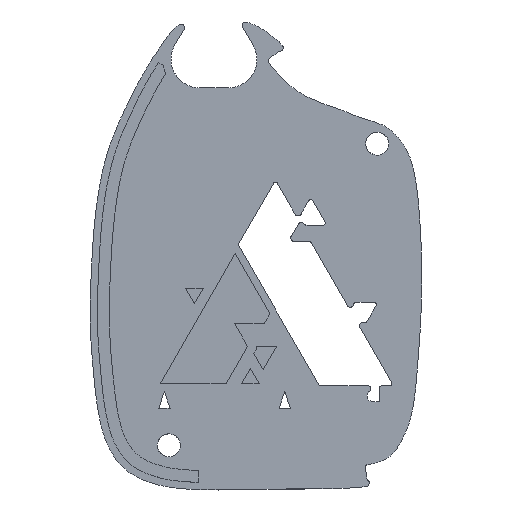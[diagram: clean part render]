
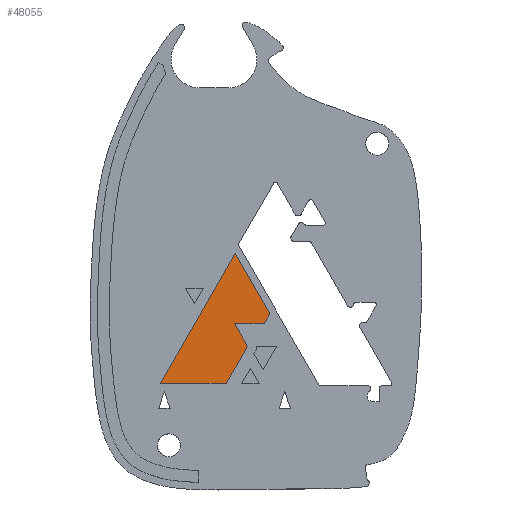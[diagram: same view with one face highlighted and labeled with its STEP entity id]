
A CAD part, top view. The second image highlights one B-rep face of the part: STEP entity #48055.
In plain terms, the highlighted planar face has unit normal (0, 0, 1).
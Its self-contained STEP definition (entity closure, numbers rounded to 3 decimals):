
#13393 = PLANE('',#13394);
#13394 = AXIS2_PLACEMENT_3D('',#13395,#13396,#13397);
#13395 = CARTESIAN_POINT('',(-2.244,-10.844,6.39));
#13396 = DIRECTION('',(-0.868,-0.497,0.));
#13397 = DIRECTION('',(-0.497,0.868,0.));
#13419 = PLANE('',#13420);
#13420 = AXIS2_PLACEMENT_3D('',#13421,#13422,#13423);
#13421 = CARTESIAN_POINT('',(-4.756,-15.207,6.39));
#13422 = DIRECTION('',(-0.867,0.499,0.));
#13423 = DIRECTION('',(0.499,0.867,0.));
#13445 = PLANE('',#13446);
#13446 = AXIS2_PLACEMENT_3D('',#13447,#13448,#13449);
#13447 = CARTESIAN_POINT('',(-12.5,-15.207,6.39));
#13448 = DIRECTION('',(0.,1.,0.));
#13449 = DIRECTION('',(1.,0.,0.));
#13471 = PLANE('',#13472);
#13472 = AXIS2_PLACEMENT_3D('',#13473,#13474,#13475);
#13473 = CARTESIAN_POINT('',(-3.706,0.098,6.39));
#13474 = DIRECTION('',(0.867,-0.498,0.));
#13475 = DIRECTION('',(-0.498,-0.867,0.));
#13497 = PLANE('',#13498);
#13498 = AXIS2_PLACEMENT_3D('',#13499,#13500,#13501);
#13499 = CARTESIAN_POINT('',(0.383,-7.006,6.39));
#13500 = DIRECTION('',(-0.867,-0.499,0.));
#13501 = DIRECTION('',(-0.499,0.867,0.));
#13523 = PLANE('',#13524);
#13524 = AXIS2_PLACEMENT_3D('',#13525,#13526,#13527);
#13525 = CARTESIAN_POINT('',(-0.279,-8.171,6.39));
#13526 = DIRECTION('',(-0.869,0.494,0.));
#13527 = DIRECTION('',(0.494,0.869,0.));
#13547 = PLANE('',#13548);
#13548 = AXIS2_PLACEMENT_3D('',#13549,#13550,#13551);
#13549 = CARTESIAN_POINT('',(-3.774,-8.171,6.39));
#13550 = DIRECTION('',(0.,1.,0.));
#13551 = DIRECTION('',(1.,0.,0.));
#47985 = VERTEX_POINT('',#47986);
#47986 = CARTESIAN_POINT('',(-3.774,-8.171,8.4));
#48007 = EDGE_CURVE('',#47985,#48008,#48010,.T.);
#48008 = VERTEX_POINT('',#48009);
#48009 = CARTESIAN_POINT('',(-0.279,-8.171,8.4));
#48010 = SURFACE_CURVE('',#48011,(#48015,#48022),.PCURVE_S1.);
#48011 = LINE('',#48012,#48013);
#48012 = CARTESIAN_POINT('',(-3.774,-8.171,8.4));
#48013 = VECTOR('',#48014,1.);
#48014 = DIRECTION('',(1.,0.,0.));
#48015 = PCURVE('',#13547,#48016);
#48016 = DEFINITIONAL_REPRESENTATION('',(#48017),#48021);
#48017 = LINE('',#48018,#48019);
#48018 = CARTESIAN_POINT('',(0.,-2.01));
#48019 = VECTOR('',#48020,1.);
#48020 = DIRECTION('',(1.,0.));
#48021 = ( GEOMETRIC_REPRESENTATION_CONTEXT(2) 
PARAMETRIC_REPRESENTATION_CONTEXT() REPRESENTATION_CONTEXT('2D SPACE',''
  ) );
#48022 = PCURVE('',#48023,#48028);
#48023 = PLANE('',#48024);
#48024 = AXIS2_PLACEMENT_3D('',#48025,#48026,#48027);
#48025 = CARTESIAN_POINT('',(-5.53,-8.874,8.4));
#48026 = DIRECTION('',(0.,0.,1.));
#48027 = DIRECTION('',(1.,0.,-0.));
#48028 = DEFINITIONAL_REPRESENTATION('',(#48029),#48033);
#48029 = LINE('',#48030,#48031);
#48030 = CARTESIAN_POINT('',(1.756,0.703));
#48031 = VECTOR('',#48032,1.);
#48032 = DIRECTION('',(1.,0.));
#48033 = ( GEOMETRIC_REPRESENTATION_CONTEXT(2) 
PARAMETRIC_REPRESENTATION_CONTEXT() REPRESENTATION_CONTEXT('2D SPACE',''
  ) );
#48055 = ADVANCED_FACE('',(#48056),#48023,.T.);
#48056 = FACE_BOUND('',#48057,.T.);
#48057 = EDGE_LOOP('',(#48058,#48083,#48104,#48105,#48128,#48151,#48174)
  );
#48058 = ORIENTED_EDGE('',*,*,#48059,.T.);
#48059 = EDGE_CURVE('',#48060,#48062,#48064,.T.);
#48060 = VERTEX_POINT('',#48061);
#48061 = CARTESIAN_POINT('',(-4.756,-15.207,8.4));
#48062 = VERTEX_POINT('',#48063);
#48063 = CARTESIAN_POINT('',(-2.244,-10.844,8.4));
#48064 = SURFACE_CURVE('',#48065,(#48069,#48076),.PCURVE_S1.);
#48065 = LINE('',#48066,#48067);
#48066 = CARTESIAN_POINT('',(-4.756,-15.207,8.4));
#48067 = VECTOR('',#48068,1.);
#48068 = DIRECTION('',(0.499,0.867,0.));
#48069 = PCURVE('',#48023,#48070);
#48070 = DEFINITIONAL_REPRESENTATION('',(#48071),#48075);
#48071 = LINE('',#48072,#48073);
#48072 = CARTESIAN_POINT('',(0.773,-6.333));
#48073 = VECTOR('',#48074,1.);
#48074 = DIRECTION('',(0.499,0.867));
#48075 = ( GEOMETRIC_REPRESENTATION_CONTEXT(2) 
PARAMETRIC_REPRESENTATION_CONTEXT() REPRESENTATION_CONTEXT('2D SPACE',''
  ) );
#48076 = PCURVE('',#13419,#48077);
#48077 = DEFINITIONAL_REPRESENTATION('',(#48078),#48082);
#48078 = LINE('',#48079,#48080);
#48079 = CARTESIAN_POINT('',(0.,-2.01));
#48080 = VECTOR('',#48081,1.);
#48081 = DIRECTION('',(1.,0.));
#48082 = ( GEOMETRIC_REPRESENTATION_CONTEXT(2) 
PARAMETRIC_REPRESENTATION_CONTEXT() REPRESENTATION_CONTEXT('2D SPACE',''
  ) );
#48083 = ORIENTED_EDGE('',*,*,#48084,.T.);
#48084 = EDGE_CURVE('',#48062,#47985,#48085,.T.);
#48085 = SURFACE_CURVE('',#48086,(#48090,#48097),.PCURVE_S1.);
#48086 = LINE('',#48087,#48088);
#48087 = CARTESIAN_POINT('',(-2.244,-10.844,8.4));
#48088 = VECTOR('',#48089,1.);
#48089 = DIRECTION('',(-0.497,0.868,0.));
#48090 = PCURVE('',#48023,#48091);
#48091 = DEFINITIONAL_REPRESENTATION('',(#48092),#48096);
#48092 = LINE('',#48093,#48094);
#48093 = CARTESIAN_POINT('',(3.286,-1.97));
#48094 = VECTOR('',#48095,1.);
#48095 = DIRECTION('',(-0.497,0.868));
#48096 = ( GEOMETRIC_REPRESENTATION_CONTEXT(2) 
PARAMETRIC_REPRESENTATION_CONTEXT() REPRESENTATION_CONTEXT('2D SPACE',''
  ) );
#48097 = PCURVE('',#13393,#48098);
#48098 = DEFINITIONAL_REPRESENTATION('',(#48099),#48103);
#48099 = LINE('',#48100,#48101);
#48100 = CARTESIAN_POINT('',(0.,-2.01));
#48101 = VECTOR('',#48102,1.);
#48102 = DIRECTION('',(1.,0.));
#48103 = ( GEOMETRIC_REPRESENTATION_CONTEXT(2) 
PARAMETRIC_REPRESENTATION_CONTEXT() REPRESENTATION_CONTEXT('2D SPACE',''
  ) );
#48104 = ORIENTED_EDGE('',*,*,#48007,.T.);
#48105 = ORIENTED_EDGE('',*,*,#48106,.T.);
#48106 = EDGE_CURVE('',#48008,#48107,#48109,.T.);
#48107 = VERTEX_POINT('',#48108);
#48108 = CARTESIAN_POINT('',(0.383,-7.006,8.4));
#48109 = SURFACE_CURVE('',#48110,(#48114,#48121),.PCURVE_S1.);
#48110 = LINE('',#48111,#48112);
#48111 = CARTESIAN_POINT('',(-0.279,-8.171,8.4));
#48112 = VECTOR('',#48113,1.);
#48113 = DIRECTION('',(0.494,0.869,0.));
#48114 = PCURVE('',#48023,#48115);
#48115 = DEFINITIONAL_REPRESENTATION('',(#48116),#48120);
#48116 = LINE('',#48117,#48118);
#48117 = CARTESIAN_POINT('',(5.25,0.703));
#48118 = VECTOR('',#48119,1.);
#48119 = DIRECTION('',(0.494,0.869));
#48120 = ( GEOMETRIC_REPRESENTATION_CONTEXT(2) 
PARAMETRIC_REPRESENTATION_CONTEXT() REPRESENTATION_CONTEXT('2D SPACE',''
  ) );
#48121 = PCURVE('',#13523,#48122);
#48122 = DEFINITIONAL_REPRESENTATION('',(#48123),#48127);
#48123 = LINE('',#48124,#48125);
#48124 = CARTESIAN_POINT('',(0.,-2.01));
#48125 = VECTOR('',#48126,1.);
#48126 = DIRECTION('',(1.,0.));
#48127 = ( GEOMETRIC_REPRESENTATION_CONTEXT(2) 
PARAMETRIC_REPRESENTATION_CONTEXT() REPRESENTATION_CONTEXT('2D SPACE',''
  ) );
#48128 = ORIENTED_EDGE('',*,*,#48129,.T.);
#48129 = EDGE_CURVE('',#48107,#48130,#48132,.T.);
#48130 = VERTEX_POINT('',#48131);
#48131 = CARTESIAN_POINT('',(-3.706,0.098,8.4));
#48132 = SURFACE_CURVE('',#48133,(#48137,#48144),.PCURVE_S1.);
#48133 = LINE('',#48134,#48135);
#48134 = CARTESIAN_POINT('',(0.383,-7.006,8.4));
#48135 = VECTOR('',#48136,1.);
#48136 = DIRECTION('',(-0.499,0.867,0.));
#48137 = PCURVE('',#48023,#48138);
#48138 = DEFINITIONAL_REPRESENTATION('',(#48139),#48143);
#48139 = LINE('',#48140,#48141);
#48140 = CARTESIAN_POINT('',(5.913,1.868));
#48141 = VECTOR('',#48142,1.);
#48142 = DIRECTION('',(-0.499,0.867));
#48143 = ( GEOMETRIC_REPRESENTATION_CONTEXT(2) 
PARAMETRIC_REPRESENTATION_CONTEXT() REPRESENTATION_CONTEXT('2D SPACE',''
  ) );
#48144 = PCURVE('',#13497,#48145);
#48145 = DEFINITIONAL_REPRESENTATION('',(#48146),#48150);
#48146 = LINE('',#48147,#48148);
#48147 = CARTESIAN_POINT('',(0.,-2.01));
#48148 = VECTOR('',#48149,1.);
#48149 = DIRECTION('',(1.,0.));
#48150 = ( GEOMETRIC_REPRESENTATION_CONTEXT(2) 
PARAMETRIC_REPRESENTATION_CONTEXT() REPRESENTATION_CONTEXT('2D SPACE',''
  ) );
#48151 = ORIENTED_EDGE('',*,*,#48152,.T.);
#48152 = EDGE_CURVE('',#48130,#48153,#48155,.T.);
#48153 = VERTEX_POINT('',#48154);
#48154 = CARTESIAN_POINT('',(-12.5,-15.207,8.4));
#48155 = SURFACE_CURVE('',#48156,(#48160,#48167),.PCURVE_S1.);
#48156 = LINE('',#48157,#48158);
#48157 = CARTESIAN_POINT('',(-3.706,0.098,8.4));
#48158 = VECTOR('',#48159,1.);
#48159 = DIRECTION('',(-0.498,-0.867,0.));
#48160 = PCURVE('',#48023,#48161);
#48161 = DEFINITIONAL_REPRESENTATION('',(#48162),#48166);
#48162 = LINE('',#48163,#48164);
#48163 = CARTESIAN_POINT('',(1.824,8.972));
#48164 = VECTOR('',#48165,1.);
#48165 = DIRECTION('',(-0.498,-0.867));
#48166 = ( GEOMETRIC_REPRESENTATION_CONTEXT(2) 
PARAMETRIC_REPRESENTATION_CONTEXT() REPRESENTATION_CONTEXT('2D SPACE',''
  ) );
#48167 = PCURVE('',#13471,#48168);
#48168 = DEFINITIONAL_REPRESENTATION('',(#48169),#48173);
#48169 = LINE('',#48170,#48171);
#48170 = CARTESIAN_POINT('',(0.,-2.01));
#48171 = VECTOR('',#48172,1.);
#48172 = DIRECTION('',(1.,0.));
#48173 = ( GEOMETRIC_REPRESENTATION_CONTEXT(2) 
PARAMETRIC_REPRESENTATION_CONTEXT() REPRESENTATION_CONTEXT('2D SPACE',''
  ) );
#48174 = ORIENTED_EDGE('',*,*,#48175,.T.);
#48175 = EDGE_CURVE('',#48153,#48060,#48176,.T.);
#48176 = SURFACE_CURVE('',#48177,(#48181,#48188),.PCURVE_S1.);
#48177 = LINE('',#48178,#48179);
#48178 = CARTESIAN_POINT('',(-12.5,-15.207,8.4));
#48179 = VECTOR('',#48180,1.);
#48180 = DIRECTION('',(1.,0.,0.));
#48181 = PCURVE('',#48023,#48182);
#48182 = DEFINITIONAL_REPRESENTATION('',(#48183),#48187);
#48183 = LINE('',#48184,#48185);
#48184 = CARTESIAN_POINT('',(-6.97,-6.333));
#48185 = VECTOR('',#48186,1.);
#48186 = DIRECTION('',(1.,0.));
#48187 = ( GEOMETRIC_REPRESENTATION_CONTEXT(2) 
PARAMETRIC_REPRESENTATION_CONTEXT() REPRESENTATION_CONTEXT('2D SPACE',''
  ) );
#48188 = PCURVE('',#13445,#48189);
#48189 = DEFINITIONAL_REPRESENTATION('',(#48190),#48194);
#48190 = LINE('',#48191,#48192);
#48191 = CARTESIAN_POINT('',(0.,-2.01));
#48192 = VECTOR('',#48193,1.);
#48193 = DIRECTION('',(1.,0.));
#48194 = ( GEOMETRIC_REPRESENTATION_CONTEXT(2) 
PARAMETRIC_REPRESENTATION_CONTEXT() REPRESENTATION_CONTEXT('2D SPACE',''
  ) );
